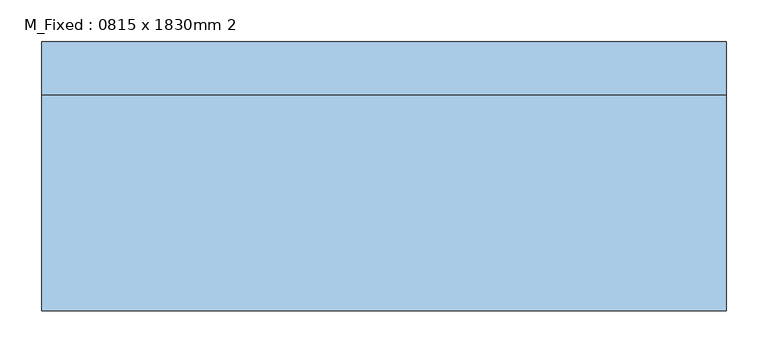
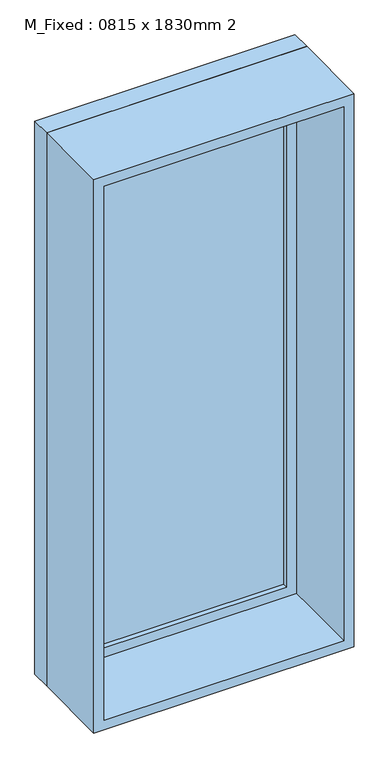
"""IFC4 building model written with IfcOpenShell, lengths in millimetres: window geometry, M_Fixed : 0815 x 1830mm 2."""

from ifc_helpers import new_model, si_unit, frame, origin, place, context, project, spatial, polyline, outline, extrude, source, transform, mapped, element, save


def m_fixed_0815_x_1830mm_2_6a11e188(model_context):
    return source(origin(), model_context, "Body", "SweptSolid", [
        extrude(outline(polyline([(-344.5, 138.0), (344.5, 138.0), (344.5, 126.0), (-344.5, 126.0), (-344.5, 138.0)])), frame((0.0, 0.0, 368.0), z_axis=(0.0, 0.0, 1.0), x_axis=(1.0, 0.0, 0.0)), (0.0, 0.0, 1.0), 1704.0),
        extrude(outline(polyline([(2116.0, -388.5), (324.0, -388.5), (324.0, 388.5), (2116.0, 388.5), (2116.0, -388.5)]), holes=[polyline([(2072.0, -344.5), (2072.0, 344.5), (368.0, 344.5), (368.0, -344.5), (2072.0, -344.5)])]), frame((0.0, 110.0, 0.0), z_axis=(0.0, 1.0, 0.0), x_axis=(0.0, 0.0, 1.0)), (0.0, 0.0, 1.0), 44.0),
        extrude(outline(polyline([(2135.0, -407.5), (305.0, -407.5), (305.0, 407.5), (2135.0, 407.5), (2135.0, -407.5)]), holes=[polyline([(2116.0, -388.5), (2116.0, 388.5), (324.0, 388.5), (324.0, -388.5), (2116.0, -388.5)])]), frame((0.0, 110.0, 0.0), z_axis=(0.0, 1.0, 0.0), x_axis=(0.0, 0.0, 1.0)), (0.0, 0.0, 1.0), 63.0),
        extrude(outline(polyline([(2135.0, -407.5), (305.0, -407.5), (305.0, 407.5), (2135.0, 407.5), (2135.0, -407.5)]), holes=[polyline([(2103.0, -375.5), (2103.0, 375.5), (337.0, 375.5), (337.0, -375.5), (2103.0, -375.5)])]), frame((0.0, -147.0, 0.0), z_axis=(0.0, 1.0, 0.0), x_axis=(0.0, 0.0, 1.0)), (0.0, 0.0, 1.0), 257.0),
    ])


if __name__ == "__main__":
    model = new_model("IFC4")
    model_context = context("Model", 3, world=origin())
    ifc_project = project(units=[si_unit("LENGTHUNIT", "METRE", prefix="MILLI")], contexts=[model_context])
    site = spatial("IfcSite", under=ifc_project)
    building = spatial("IfcBuilding", under=site)
    placement = place(None, origin())
    m_fixed_0815_x_1830mm_2_shape = m_fixed_0815_x_1830mm_2_6a11e188(model_context)
    element("IfcWindow", 1, ObjectType="M_Fixed : 0815 x 1830mm 2", at=placement, inside=building, context=model_context, shape_type="MappedRepresentation", body=[
        mapped(m_fixed_0815_x_1830mm_2_shape, transform((0.0, 0.0, 0.0), x_axis=(1.0, 0.0, 0.0), y_axis=(0.0, 1.0, 0.0), z_axis=(0.0, 0.0, 1.0))),
    ])
    save(model, "model.ifc")
